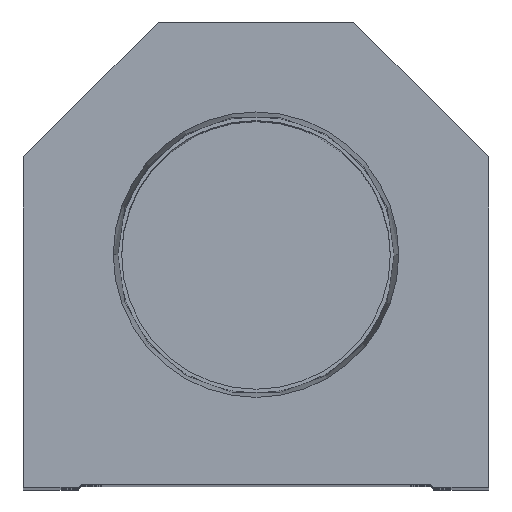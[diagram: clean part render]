
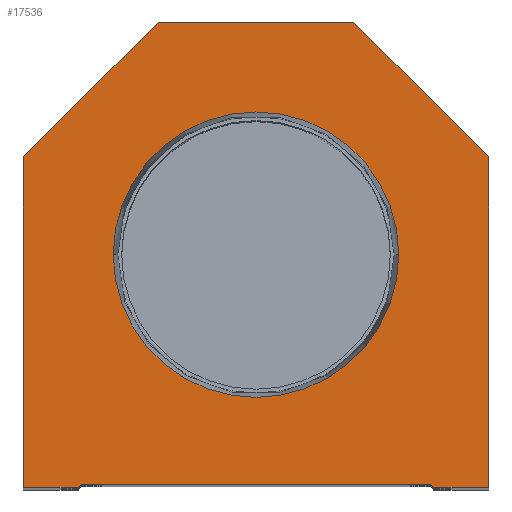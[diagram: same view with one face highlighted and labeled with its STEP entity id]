
A CAD part, top view. The second image highlights one B-rep face of the part: STEP entity #17536.
In plain terms, the highlighted planar face has unit normal (0, 0, 1).
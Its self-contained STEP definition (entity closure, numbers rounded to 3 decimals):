
#9 = VECTOR ( 'NONE', #14817, 1000. ) ;
#211 = CARTESIAN_POINT ( 'NONE',  ( -38.1, 0., 0. ) ) ;
#265 = EDGE_CURVE ( 'NONE', #17433, #2287, #6797, .T. ) ;
#319 = CARTESIAN_POINT ( 'NONE',  ( 38.1, 0., 0. ) ) ;
#466 = FACE_BOUND ( 'NONE', #15836, .T. ) ;
#484 = LINE ( 'NONE', #6469, #9987 ) ;
#1114 = CARTESIAN_POINT ( 'NONE',  ( 28.6, 0., 0. ) ) ;
#1257 = VERTEX_POINT ( 'NONE', #12505 ) ;
#1504 = VECTOR ( 'NONE', #5985, 1000. ) ;
#2270 = CARTESIAN_POINT ( 'NONE',  ( -38.1, 0., 0. ) ) ;
#2287 = VERTEX_POINT ( 'NONE', #8657 ) ;
#2319 = LINE ( 'NONE', #11342, #5966 ) ;
#2433 = CARTESIAN_POINT ( 'NONE',  ( 0., 38.1, 0. ) ) ;
#2500 = EDGE_CURVE ( 'NONE', #2872, #13750, #8742, .T. ) ;
#2613 = ORIENTED_EDGE ( 'NONE', *, *, #14010, .T. ) ;
#2783 = CARTESIAN_POINT ( 'NONE',  ( -23.374, 38.1, 0. ) ) ;
#2855 = ORIENTED_EDGE ( 'NONE', *, *, #11171, .T. ) ;
#2869 = LINE ( 'NONE', #5399, #17906 ) ;
#2872 = VERTEX_POINT ( 'NONE', #17040 ) ;
#2894 = CIRCLE ( 'NONE', #10751, 23.374 ) ;
#2958 = LINE ( 'NONE', #13413, #9 ) ;
#4432 = CARTESIAN_POINT ( 'NONE',  ( 38.1, 0., 0. ) ) ;
#4687 = VERTEX_POINT ( 'NONE', #8386 ) ;
#4775 = EDGE_CURVE ( 'NONE', #4687, #15211, #5026, .T. ) ;
#4846 = CARTESIAN_POINT ( 'NONE',  ( 38.1, 54.1, 0. ) ) ;
#4905 = VECTOR ( 'NONE', #14943, 1000. ) ;
#5026 = LINE ( 'NONE', #4846, #4905 ) ;
#5096 = DIRECTION ( 'NONE',  ( 1., 0., 0. ) ) ;
#5142 = EDGE_CURVE ( 'NONE', #12755, #11467, #14163, .T. ) ;
#5216 = DIRECTION ( 'NONE',  ( 0.707, 0.707, 0. ) ) ;
#5235 = DIRECTION ( 'NONE',  ( -0.707, -0.707, 0. ) ) ;
#5399 = CARTESIAN_POINT ( 'NONE',  ( -28.6, 0., 0. ) ) ;
#5966 = VECTOR ( 'NONE', #5235, 1000. ) ;
#5985 = DIRECTION ( 'NONE',  ( 0., -1., 0. ) ) ;
#6077 = DIRECTION ( 'NONE',  ( 0., 0., 1. ) ) ;
#6256 = FACE_OUTER_BOUND ( 'NONE', #7518, .T. ) ;
#6469 = CARTESIAN_POINT ( 'NONE',  ( 16., 76.2, 0. ) ) ;
#6646 = ORIENTED_EDGE ( 'NONE', *, *, #5142, .T. ) ;
#6797 = CIRCLE ( 'NONE', #14111, 23.374 ) ;
#6827 = CARTESIAN_POINT ( 'NONE',  ( -14.55, 14.55, 0. ) ) ;
#7049 = ORIENTED_EDGE ( 'NONE', *, *, #2500, .T. ) ;
#7240 = ORIENTED_EDGE ( 'NONE', *, *, #9677, .T. ) ;
#7518 = EDGE_LOOP ( 'NONE', ( #7240, #16528, #18324, #2613, #6646, #11535, #11078, #8212, #2855, #7049 ) ) ;
#8195 = DIRECTION ( 'NONE',  ( 1., 0., 0. ) ) ;
#8212 = ORIENTED_EDGE ( 'NONE', *, *, #12672, .T. ) ;
#8316 = CARTESIAN_POINT ( 'NONE',  ( 16., 76.2, 0. ) ) ;
#8386 = CARTESIAN_POINT ( 'NONE',  ( 38.1, 54.1, 0. ) ) ;
#8644 = DIRECTION ( 'NONE',  ( 1., 0., 0. ) ) ;
#8657 = CARTESIAN_POINT ( 'NONE',  ( 23.374, 38.1, 0. ) ) ;
#8742 = LINE ( 'NONE', #211, #1504 ) ;
#8908 = VECTOR ( 'NONE', #5216, 1000. ) ;
#9594 = LINE ( 'NONE', #6827, #8908 ) ;
#9677 = EDGE_CURVE ( 'NONE', #13750, #16557, #2869, .T. ) ;
#9987 = VECTOR ( 'NONE', #13606, 1000. ) ;
#10276 = EDGE_CURVE ( 'NONE', #11467, #4687, #10472, .T. ) ;
#10472 = LINE ( 'NONE', #319, #15960 ) ;
#10616 = VECTOR ( 'NONE', #16203, 1000. ) ;
#10751 = AXIS2_PLACEMENT_3D ( 'NONE', #2433, #15818, #14400 ) ;
#10882 = VERTEX_POINT ( 'NONE', #13490 ) ;
#11078 = ORIENTED_EDGE ( 'NONE', *, *, #4775, .T. ) ;
#11171 = EDGE_CURVE ( 'NONE', #12110, #2872, #2319, .T. ) ;
#11342 = CARTESIAN_POINT ( 'NONE',  ( -38.1, 54.1, 0. ) ) ;
#11467 = VERTEX_POINT ( 'NONE', #4432 ) ;
#11535 = ORIENTED_EDGE ( 'NONE', *, *, #10276, .T. ) ;
#11848 = CARTESIAN_POINT ( 'NONE',  ( -28.6, 0.5, 0. ) ) ;
#11946 = LINE ( 'NONE', #11848, #10616 ) ;
#12110 = VERTEX_POINT ( 'NONE', #18097 ) ;
#12505 = CARTESIAN_POINT ( 'NONE',  ( 28.6, 0.5, 0. ) ) ;
#12672 = EDGE_CURVE ( 'NONE', #15211, #12110, #484, .T. ) ;
#12755 = VERTEX_POINT ( 'NONE', #13879 ) ;
#13084 = EDGE_CURVE ( 'NONE', #10882, #1257, #11946, .T. ) ;
#13413 = CARTESIAN_POINT ( 'NONE',  ( 14.55, 14.55, 0. ) ) ;
#13464 = ORIENTED_EDGE ( 'NONE', *, *, #265, .F. ) ;
#13490 = CARTESIAN_POINT ( 'NONE',  ( -28.6, 0.5, 0. ) ) ;
#13587 = CARTESIAN_POINT ( 'NONE',  ( 0., 0., 0. ) ) ;
#13606 = DIRECTION ( 'NONE',  ( -1., 0., 0. ) ) ;
#13750 = VERTEX_POINT ( 'NONE', #2270 ) ;
#13879 = CARTESIAN_POINT ( 'NONE',  ( 29.1, 0., 0. ) ) ;
#14010 = EDGE_CURVE ( 'NONE', #1257, #12755, #2958, .T. ) ;
#14083 = CARTESIAN_POINT ( 'NONE',  ( -29.1, 0., 0. ) ) ;
#14111 = AXIS2_PLACEMENT_3D ( 'NONE', #15240, #15527, #8195 ) ;
#14163 = LINE ( 'NONE', #1114, #14372 ) ;
#14372 = VECTOR ( 'NONE', #5096, 1000. ) ;
#14400 = DIRECTION ( 'NONE',  ( 1., 0., 0. ) ) ;
#14817 = DIRECTION ( 'NONE',  ( 0.707, -0.707, 0. ) ) ;
#14943 = DIRECTION ( 'NONE',  ( -0.707, 0.707, 0. ) ) ;
#15211 = VERTEX_POINT ( 'NONE', #8316 ) ;
#15240 = CARTESIAN_POINT ( 'NONE',  ( 0., 38.1, 0. ) ) ;
#15527 = DIRECTION ( 'NONE',  ( 0., 0., 1. ) ) ;
#15818 = DIRECTION ( 'NONE',  ( 0., 0., 1. ) ) ;
#15836 = EDGE_LOOP ( 'NONE', ( #18213, #13464 ) ) ;
#15960 = VECTOR ( 'NONE', #17773, 1000. ) ;
#16203 = DIRECTION ( 'NONE',  ( 1., 0., 0. ) ) ;
#16238 = PLANE ( 'NONE',  #18000 ) ;
#16528 = ORIENTED_EDGE ( 'NONE', *, *, #16597, .T. ) ;
#16557 = VERTEX_POINT ( 'NONE', #14083 ) ;
#16597 = EDGE_CURVE ( 'NONE', #16557, #10882, #9594, .T. ) ;
#17040 = CARTESIAN_POINT ( 'NONE',  ( -38.1, 54.1, 0. ) ) ;
#17433 = VERTEX_POINT ( 'NONE', #2783 ) ;
#17536 = ADVANCED_FACE ( 'NONE', ( #466, #6256 ), #16238, .T. ) ;
#17773 = DIRECTION ( 'NONE',  ( 0., 1., 0. ) ) ;
#17906 = VECTOR ( 'NONE', #8644, 1000. ) ;
#17948 = DIRECTION ( 'NONE',  ( 1., 0., 0. ) ) ;
#18000 = AXIS2_PLACEMENT_3D ( 'NONE', #13587, #6077, #17948 ) ;
#18097 = CARTESIAN_POINT ( 'NONE',  ( -16., 76.2, 0. ) ) ;
#18213 = ORIENTED_EDGE ( 'NONE', *, *, #18471, .F. ) ;
#18324 = ORIENTED_EDGE ( 'NONE', *, *, #13084, .T. ) ;
#18471 = EDGE_CURVE ( 'NONE', #2287, #17433, #2894, .T. ) ;
